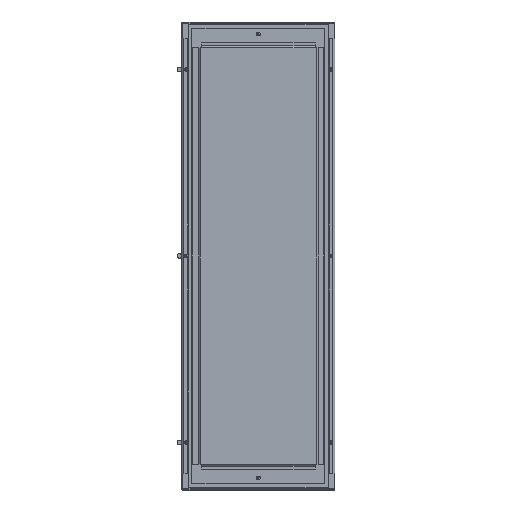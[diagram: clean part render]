
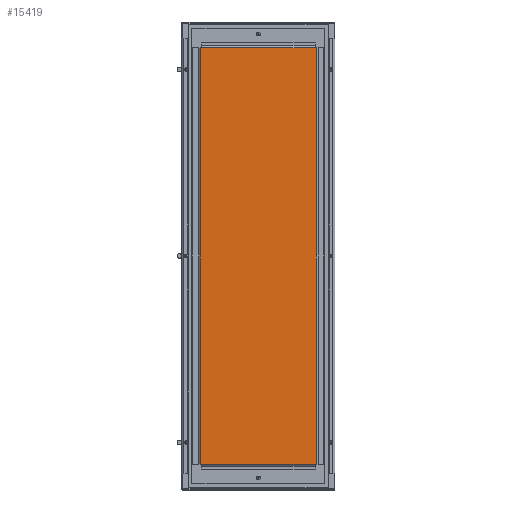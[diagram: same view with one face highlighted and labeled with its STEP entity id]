
A CAD part, top view. The second image highlights one B-rep face of the part: STEP entity #15419.
In plain terms, the highlighted planar face has unit normal (0, 0, 1).
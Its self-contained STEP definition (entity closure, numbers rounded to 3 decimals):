
#5508=DIRECTION('',(1.,0.,0.));
#5509=VECTOR('',#5508,4.3);
#5510=CARTESIAN_POINT('',(563.75,108.5,10.));
#5511=LINE('',#5510,#5509);
#5688=DIRECTION('',(1.,0.,0.));
#5689=VECTOR('',#5688,4.3);
#5690=CARTESIAN_POINT('',(563.75,1868.5,10.));
#5691=LINE('',#5690,#5689);
#5692=DIRECTION('',(0.,-1.,0.));
#5693=VECTOR('',#5692,1760.);
#5694=CARTESIAN_POINT('',(568.05,1868.5,10.));
#5695=LINE('',#5694,#5693);
#5696=DIRECTION('',(-1.,0.,0.));
#5697=VECTOR('',#5696,480.);
#5698=CARTESIAN_POINT('',(563.75,108.5,10.));
#5699=LINE('',#5698,#5697);
#5700=DIRECTION('',(1.,0.,0.));
#5701=VECTOR('',#5700,4.3);
#5702=CARTESIAN_POINT('',(79.45,1868.5,10.));
#5703=LINE('',#5702,#5701);
#5732=DIRECTION('',(1.,0.,0.));
#5733=VECTOR('',#5732,4.3);
#5734=CARTESIAN_POINT('',(79.45,108.5,10.));
#5735=LINE('',#5734,#5733);
#5756=DIRECTION('',(0.,-1.,0.));
#5757=VECTOR('',#5756,1760.);
#5758=CARTESIAN_POINT('',(79.45,1868.5,10.));
#5759=LINE('',#5758,#5757);
#5760=DIRECTION('',(-1.,0.,0.));
#5761=VECTOR('',#5760,480.);
#5762=CARTESIAN_POINT('',(563.75,1868.5,10.));
#5763=LINE('',#5762,#5761);
#7667=CARTESIAN_POINT('',(563.75,108.5,10.));
#7669=VERTEX_POINT('',#7667);
#7670=CARTESIAN_POINT('',(568.05,108.5,10.));
#7671=VERTEX_POINT('',#7670);
#7686=CARTESIAN_POINT('',(83.75,108.5,10.));
#7687=VERTEX_POINT('',#7686);
#7700=CARTESIAN_POINT('',(83.75,1868.5,10.));
#7701=VERTEX_POINT('',#7700);
#7702=CARTESIAN_POINT('',(79.45,1868.5,10.));
#7703=VERTEX_POINT('',#7702);
#7714=CARTESIAN_POINT('',(563.75,1868.5,10.));
#7715=VERTEX_POINT('',#7714);
#7722=CARTESIAN_POINT('',(568.05,1868.5,10.));
#7723=VERTEX_POINT('',#7722);
#7724=CARTESIAN_POINT('',(79.45,108.5,10.));
#7725=VERTEX_POINT('',#7724);
#15400=CARTESIAN_POINT('',(568.05,108.5,10.));
#15401=DIRECTION('',(0.,0.,1.));
#15402=DIRECTION('',(-1.,0.,0.));
#15403=AXIS2_PLACEMENT_3D('',#15400,#15401,#15402);
#15404=PLANE('',#15403);
#15405=ORIENTED_EDGE('',*,*,#15344,.T.);
#15406=ORIENTED_EDGE('',*,*,#15393,.T.);
#15407=ORIENTED_EDGE('',*,*,#15143,.F.);
#15409=ORIENTED_EDGE('',*,*,#15408,.T.);
#15411=ORIENTED_EDGE('',*,*,#15410,.F.);
#15413=ORIENTED_EDGE('',*,*,#15412,.F.);
#15414=ORIENTED_EDGE('',*,*,#15251,.T.);
#15416=ORIENTED_EDGE('',*,*,#15415,.F.);
#15417=EDGE_LOOP('',(#15405,#15406,#15407,#15409,#15411,#15413,#15414,#15416));
#15418=FACE_OUTER_BOUND('',#15417,.F.);
#15143=EDGE_CURVE('',#7669,#7671,#5511,.T.);
#15251=EDGE_CURVE('',#7703,#7701,#5703,.T.);
#15344=EDGE_CURVE('',#7715,#7723,#5691,.T.);
#15393=EDGE_CURVE('',#7723,#7671,#5695,.T.);
#15408=EDGE_CURVE('',#7669,#7687,#5699,.T.);
#15410=EDGE_CURVE('',#7725,#7687,#5735,.T.);
#15412=EDGE_CURVE('',#7703,#7725,#5759,.T.);
#15415=EDGE_CURVE('',#7715,#7701,#5763,.T.);
#15419=ADVANCED_FACE('',(#15418),#15404,.T.);
